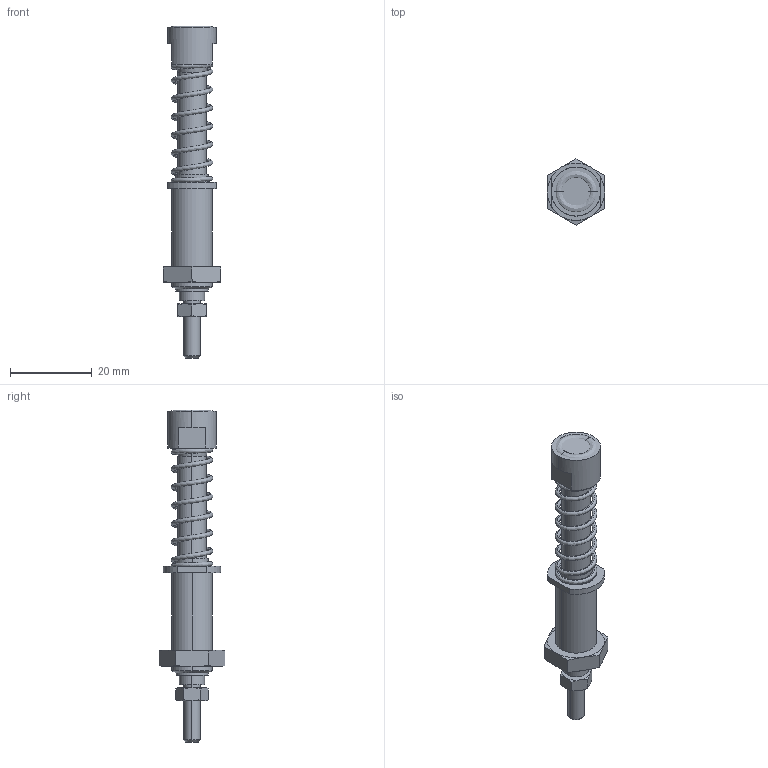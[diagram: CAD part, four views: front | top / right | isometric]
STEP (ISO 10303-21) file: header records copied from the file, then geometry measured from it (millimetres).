
FILE_DESCRIPTION (( 'STEP AP203' ), '1' );
FILE_NAME ('BC75-12_STEP-AP203.STEP', '2022-03-22T07:32:00', ( '' ), ( '' ), 'SwSTEP 2.0', 'SolidWorks 2017', '' );
FILE_SCHEMA (( 'CONFIG_CONTROL_DESIGN' ));
Length unit declared in the file: millimetre
Products named in the file (1): BC75-12_STEP-AP203
Bounding box: 14 x 16.17 x 81.32 mm (x, y, z)
Volume: 5300.6 mm3; surface area: 5516.8 mm2
Topology: 8 solids, 8 shells, 133 faces, 284 edges, 170 vertices
Faces by surface type: plane 43, cylinder 36, cone 30, torus 12, bspline 10, sphere 2
Entity records: 5495 total; most frequent: CARTESIAN_POINT 2610, DIRECTION 608, ORIENTED_EDGE 564, EDGE_CURVE 282, AXIS2_PLACEMENT_3D 266, VERTEX_POINT 170, EDGE_LOOP 148, CIRCLE 142
